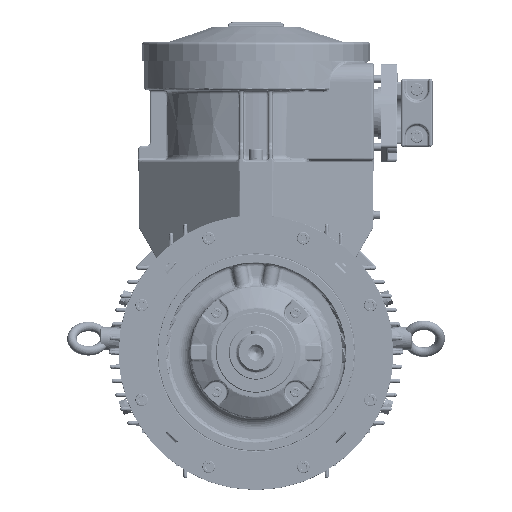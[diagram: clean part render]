
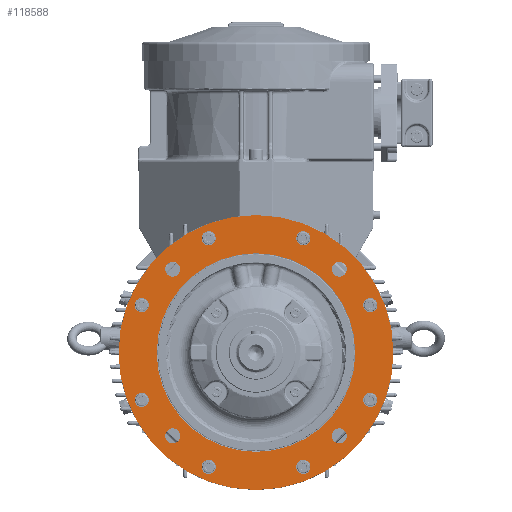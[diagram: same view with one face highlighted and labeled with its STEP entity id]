
A CAD part, left-side view. The second image highlights one B-rep face of the part: STEP entity #118588.
In plain terms, the highlighted planar face has unit normal (-1, 0, 0).
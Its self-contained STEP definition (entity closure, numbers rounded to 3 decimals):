
#6918=PLANE('',#162861);
#41223=ORIENTED_EDGE('',*,*,#70039,.T.);
#41224=ORIENTED_EDGE('',*,*,#70040,.T.);
#41225=ORIENTED_EDGE('',*,*,#70041,.T.);
#41226=ORIENTED_EDGE('',*,*,#70042,.T.);
#41227=ORIENTED_EDGE('',*,*,#70043,.T.);
#41228=ORIENTED_EDGE('',*,*,#70044,.T.);
#41229=ORIENTED_EDGE('',*,*,#70045,.T.);
#41230=ORIENTED_EDGE('',*,*,#70046,.T.);
#41231=ORIENTED_EDGE('',*,*,#70047,.F.);
#41232=ORIENTED_EDGE('',*,*,#70048,.F.);
#41233=ORIENTED_EDGE('',*,*,#70049,.F.);
#41234=ORIENTED_EDGE('',*,*,#70050,.F.);
#41235=ORIENTED_EDGE('',*,*,#69435,.T.);
#41236=ORIENTED_EDGE('',*,*,#70037,.F.);
#69435=EDGE_CURVE('',#84955,#84955,#92505,.T.);
#70037=EDGE_CURVE('',#85390,#85390,#92668,.T.);
#70039=EDGE_CURVE('',#85392,#85392,#92670,.T.);
#70040=EDGE_CURVE('',#85393,#85393,#92671,.T.);
#70041=EDGE_CURVE('',#85394,#85394,#92672,.T.);
#70042=EDGE_CURVE('',#85395,#85395,#92673,.T.);
#70043=EDGE_CURVE('',#85396,#85396,#92674,.T.);
#70044=EDGE_CURVE('',#85397,#85397,#92675,.T.);
#70045=EDGE_CURVE('',#85398,#85398,#92676,.T.);
#70046=EDGE_CURVE('',#85399,#85399,#92677,.T.);
#70047=EDGE_CURVE('',#85400,#85400,#92678,.T.);
#70048=EDGE_CURVE('',#85401,#85401,#92679,.T.);
#70049=EDGE_CURVE('',#85402,#85402,#92680,.T.);
#70050=EDGE_CURVE('',#85403,#85403,#92681,.T.);
#84955=VERTEX_POINT('',#215901);
#85390=VERTEX_POINT('',#218661);
#85392=VERTEX_POINT('',#218666);
#85393=VERTEX_POINT('',#218668);
#85394=VERTEX_POINT('',#218670);
#85395=VERTEX_POINT('',#218672);
#85396=VERTEX_POINT('',#218674);
#85397=VERTEX_POINT('',#218676);
#85398=VERTEX_POINT('',#218678);
#85399=VERTEX_POINT('',#218680);
#85400=VERTEX_POINT('',#218682);
#85401=VERTEX_POINT('',#218684);
#85402=VERTEX_POINT('',#218686);
#85403=VERTEX_POINT('',#218688);
#92505=CIRCLE('',#162534,175.);
#92668=CIRCLE('',#162859,126.4);
#92670=CIRCLE('',#162862,9.);
#92671=CIRCLE('',#162863,9.);
#92672=CIRCLE('',#162864,9.);
#92673=CIRCLE('',#162865,9.);
#92674=CIRCLE('',#162866,9.);
#92675=CIRCLE('',#162867,9.);
#92676=CIRCLE('',#162868,9.);
#92677=CIRCLE('',#162869,9.);
#92678=CIRCLE('',#162870,9.5);
#92679=CIRCLE('',#162871,9.5);
#92680=CIRCLE('',#162872,9.5);
#92681=CIRCLE('',#162873,9.5);
#99681=EDGE_LOOP('',(#41223));
#99682=EDGE_LOOP('',(#41224));
#99683=EDGE_LOOP('',(#41225));
#99684=EDGE_LOOP('',(#41226));
#99685=EDGE_LOOP('',(#41227));
#99686=EDGE_LOOP('',(#41228));
#99687=EDGE_LOOP('',(#41229));
#99688=EDGE_LOOP('',(#41230));
#99689=EDGE_LOOP('',(#41231));
#99690=EDGE_LOOP('',(#41232));
#99691=EDGE_LOOP('',(#41233));
#99692=EDGE_LOOP('',(#41234));
#99693=EDGE_LOOP('',(#41235));
#99694=EDGE_LOOP('',(#41236));
#108823=FACE_BOUND('',#99681,.T.);
#108824=FACE_BOUND('',#99682,.T.);
#108825=FACE_BOUND('',#99683,.T.);
#108826=FACE_BOUND('',#99684,.T.);
#108827=FACE_BOUND('',#99685,.T.);
#108828=FACE_BOUND('',#99686,.T.);
#108829=FACE_BOUND('',#99687,.T.);
#108830=FACE_BOUND('',#99688,.T.);
#108831=FACE_BOUND('',#99689,.T.);
#108832=FACE_BOUND('',#99690,.T.);
#108833=FACE_BOUND('',#99691,.T.);
#108834=FACE_BOUND('',#99692,.T.);
#108835=FACE_BOUND('',#99693,.T.);
#108836=FACE_BOUND('',#99694,.T.);
#118588=ADVANCED_FACE('',(#108823,#108824,#108825,#108826,#108827,#108828,
#108829,#108830,#108831,#108832,#108833,#108834,#108835,#108836),#6918,
 .T.);
#162534=AXIS2_PLACEMENT_3D('',#215900,#181342,#181343);
#162859=AXIS2_PLACEMENT_3D('',#218660,#182206,#182207);
#162861=AXIS2_PLACEMENT_3D('',#218664,#182210,#182211);
#162862=AXIS2_PLACEMENT_3D('',#218665,#182212,#182213);
#162863=AXIS2_PLACEMENT_3D('',#218667,#182214,#182215);
#162864=AXIS2_PLACEMENT_3D('',#218669,#182216,#182217);
#162865=AXIS2_PLACEMENT_3D('',#218671,#182218,#182219);
#162866=AXIS2_PLACEMENT_3D('',#218673,#182220,#182221);
#162867=AXIS2_PLACEMENT_3D('',#218675,#182222,#182223);
#162868=AXIS2_PLACEMENT_3D('',#218677,#182224,#182225);
#162869=AXIS2_PLACEMENT_3D('',#218679,#182226,#182227);
#162870=AXIS2_PLACEMENT_3D('',#218681,#182228,#182229);
#162871=AXIS2_PLACEMENT_3D('',#218683,#182230,#182231);
#162872=AXIS2_PLACEMENT_3D('',#218685,#182232,#182233);
#162873=AXIS2_PLACEMENT_3D('',#218687,#182234,#182235);
#181342=DIRECTION('',(-1.,0.,0.));
#181343=DIRECTION('',(0.,0.,-1.));
#182206=DIRECTION('',(-1.,0.,0.));
#182207=DIRECTION('',(0.,0.,-1.));
#182210=DIRECTION('',(-1.,0.,0.));
#182211=DIRECTION('',(0.,0.,-1.));
#182212=DIRECTION('',(1.,0.,0.));
#182213=DIRECTION('',(0.,0.,-1.));
#182214=DIRECTION('',(1.,0.,0.));
#182215=DIRECTION('',(0.,0.,-1.));
#182216=DIRECTION('',(1.,0.,0.));
#182217=DIRECTION('',(0.,0.,-1.));
#182218=DIRECTION('',(1.,0.,0.));
#182219=DIRECTION('',(0.,0.,-1.));
#182220=DIRECTION('',(1.,0.,0.));
#182221=DIRECTION('',(0.,0.,-1.));
#182222=DIRECTION('',(1.,0.,0.));
#182223=DIRECTION('',(0.,0.,-1.));
#182224=DIRECTION('',(1.,0.,0.));
#182225=DIRECTION('',(0.,0.,-1.));
#182226=DIRECTION('',(1.,0.,0.));
#182227=DIRECTION('',(0.,0.,-1.));
#182228=DIRECTION('',(-1.,0.,0.));
#182229=DIRECTION('',(0.,-1.,0.));
#182230=DIRECTION('',(-1.,0.,0.));
#182231=DIRECTION('',(0.,-1.,0.));
#182232=DIRECTION('',(-1.,0.,0.));
#182233=DIRECTION('',(0.,-1.,0.));
#182234=DIRECTION('',(-1.,0.,0.));
#182235=DIRECTION('',(0.,-1.,0.));
#215900=CARTESIAN_POINT('',(-42.756,0.,0.));
#215901=CARTESIAN_POINT('',(-42.756,0.,-175.));
#218660=CARTESIAN_POINT('',(-42.756,0.,0.));
#218661=CARTESIAN_POINT('',(-42.756,0.,-126.4));
#218664=CARTESIAN_POINT('',(-42.756,0.,126.4));
#218665=CARTESIAN_POINT('',(-42.756,145.511,60.273));
#218666=CARTESIAN_POINT('',(-42.756,145.511,51.273));
#218667=CARTESIAN_POINT('',(-42.756,145.511,-60.273));
#218668=CARTESIAN_POINT('',(-42.756,145.511,-69.273));
#218669=CARTESIAN_POINT('',(-42.756,60.273,-145.511));
#218670=CARTESIAN_POINT('',(-42.756,60.273,-154.511));
#218671=CARTESIAN_POINT('',(-42.756,-60.273,-145.511));
#218672=CARTESIAN_POINT('',(-42.756,-60.273,-154.511));
#218673=CARTESIAN_POINT('',(-42.756,-145.511,-60.273));
#218674=CARTESIAN_POINT('',(-42.756,-145.511,-69.273));
#218675=CARTESIAN_POINT('',(-42.756,-145.511,60.273));
#218676=CARTESIAN_POINT('',(-42.756,-145.511,51.273));
#218677=CARTESIAN_POINT('',(-42.756,-60.273,145.511));
#218678=CARTESIAN_POINT('',(-42.756,-60.273,136.511));
#218679=CARTESIAN_POINT('',(-42.756,60.273,145.511));
#218680=CARTESIAN_POINT('',(-42.756,60.273,136.511));
#218681=CARTESIAN_POINT('',(-42.756,-106.066,-106.066));
#218682=CARTESIAN_POINT('',(-42.756,-115.566,-106.066));
#218683=CARTESIAN_POINT('',(-42.756,106.066,-106.066));
#218684=CARTESIAN_POINT('',(-42.756,96.566,-106.066));
#218685=CARTESIAN_POINT('',(-42.756,106.066,106.066));
#218686=CARTESIAN_POINT('',(-42.756,96.566,106.066));
#218687=CARTESIAN_POINT('',(-42.756,-106.066,106.066));
#218688=CARTESIAN_POINT('',(-42.756,-115.566,106.066));
